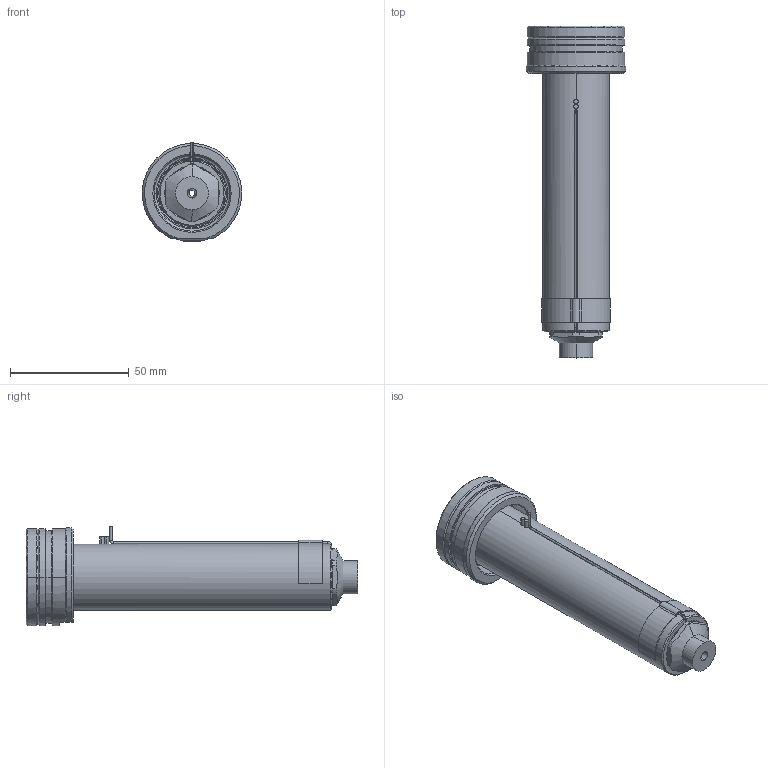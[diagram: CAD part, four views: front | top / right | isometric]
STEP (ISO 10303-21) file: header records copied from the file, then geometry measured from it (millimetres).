
FILE_DESCRIPTION((''),'2;1');
FILE_NAME('EO10_VG-ST_STD_120_SW','2024-02-19T12:46:40',('sundharh'),(''),'CREO PARAMETRIC BY PTC INC, 2023154','CREO PARAMETRIC BY PTC INC, 2023154','');
FILE_SCHEMA(('CONFIG_CONTROL_DESIGN'));
Length unit declared in the file: millimetre
Products named in the file (1): EO10_VG-ST_STD_120_SW
Bounding box: 41.85 x 140 x 42.02 mm (x, y, z)
Volume: 83471.3 mm3; surface area: 22712.6 mm2
Topology: 1 solids, 1 shells, 165 faces, 424 edges, 263 vertices
Faces by surface type: cylinder 63, plane 45, cone 33, torus 17, bspline 5, sphere 2
Entity records: 5780 total; most frequent: CARTESIAN_POINT 1676, DIRECTION 895, ORIENTED_EDGE 844, EDGE_CURVE 422, AXIS2_PLACEMENT_3D 369, VERTEX_POINT 263, CIRCLE 209, EDGE_LOOP 179
